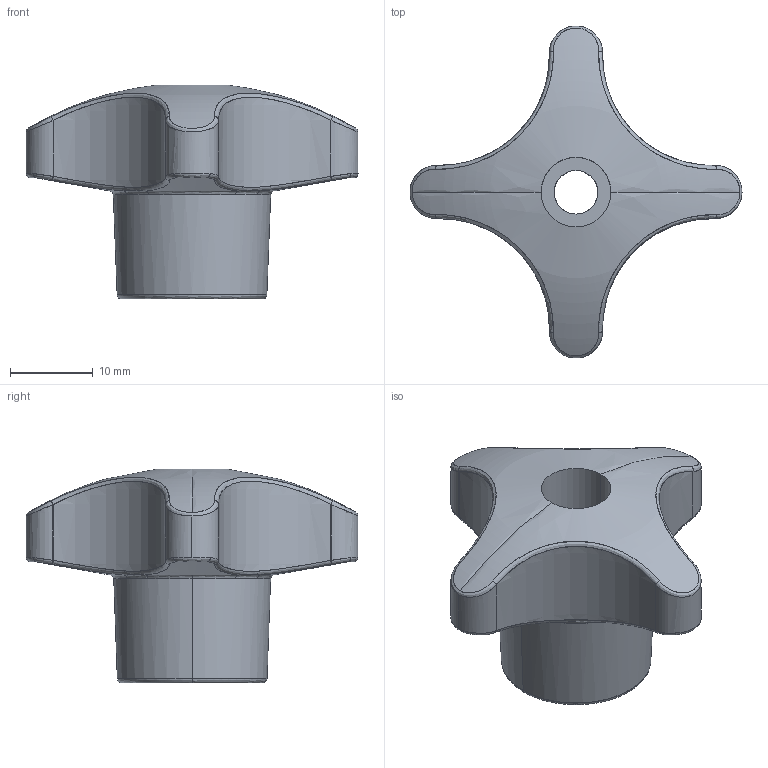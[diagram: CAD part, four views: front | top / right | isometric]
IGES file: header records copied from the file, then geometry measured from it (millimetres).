
Start section: SolidWorks IGES file using analytic representation for surfaces
Global section: file name: C:\Users\Marc\Documents\2 ENGINYERIA\Catalogo 3D\IGS STEP DXF\1121 40 402.IGS; native system: SolidWorks 2010; preprocessor: SolidWorks 2010; author: Marc; date: 101126.164620; units: millimetre
Bounding box: 40 x 40 x 25.77 mm (x, y, z)
Surface area: 4790.3 mm2 (no closed solid volume)
Topology: 0 solids, 0 shells, 81 faces, 1117 edges, 1117 vertices
Faces by surface type: bspline 45, revolution 36
